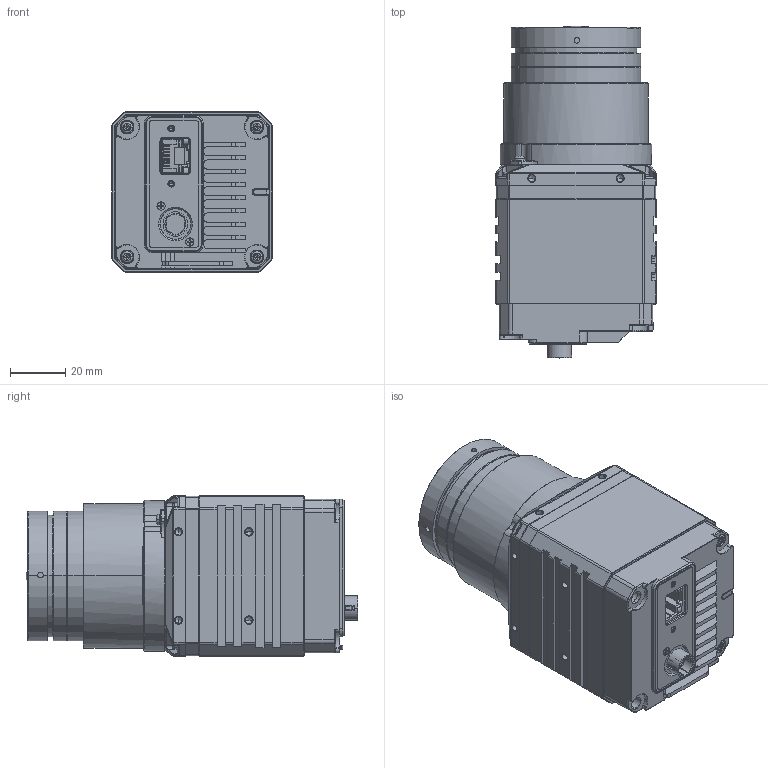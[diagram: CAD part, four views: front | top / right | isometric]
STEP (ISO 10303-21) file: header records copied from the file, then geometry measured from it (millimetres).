
FILE_DESCRIPTION((''),'2;1');
FILE_NAME('00-ALL--0001_ASM','2021-06-04T11:56:34',('gengdawei'),(''),'CREO PARAMETRIC BY PTC INC, 2017260','CREO PARAMETRIC BY PTC INC, 2017260','');
FILE_SCHEMA(('CONFIG_CONTROL_DESIGN'));
Products named in the file (1): 00-ALL--0001_ASM
Bounding box: 58 x 120.29 x 58 mm (x, y, z)
Volume: 295411.2 mm3; surface area: 45241.3 mm2
Topology: 1 solids, 30 shells, 2624 faces, 6761 edges, 4218 vertices
Faces by surface type: plane 1404, cylinder 853, cone 221, bspline 92, torus 48, sphere 6
Entity records: 92150 total; most frequent: CARTESIAN_POINT 29200, ORIENTED_EDGE 13414, DIRECTION 12667, EDGE_CURVE 6707, AXIS2_PLACEMENT_3D 4228, VERTEX_POINT 4218, VECTOR 4211, LINE 4211
